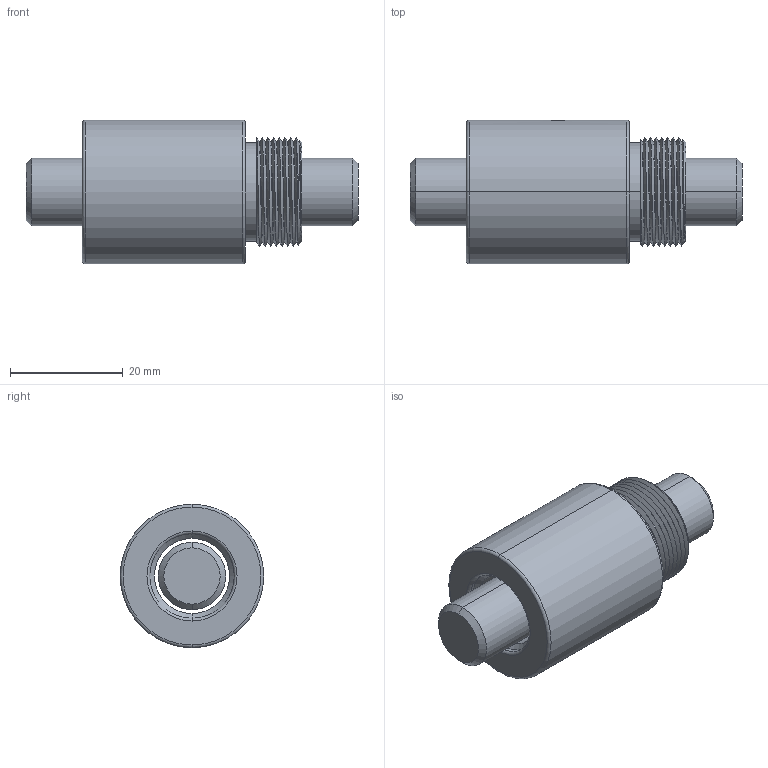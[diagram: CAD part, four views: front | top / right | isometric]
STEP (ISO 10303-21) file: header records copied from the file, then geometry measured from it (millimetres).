
FILE_DESCRIPTION (( 'STEP AP203' ), '1' );
FILE_NAME ('BSHR01205C1-C.STEP', '2020-06-22T06:28:25', ( '' ), ( '' ), 'SwSTEP 2.0', 'SolidWorks 2013', '' );
FILE_SCHEMA (( 'CONFIG_CONTROL_DESIGN' ));
Length unit declared in the file: millimetre
Products named in the file (1): BSHR01205C1-C
Bounding box: 59 x 25.5 x 25.5 mm (x, y, z)
Volume: 18472.6 mm3; surface area: 8054.4 mm2
Topology: 2 solids, 2 shells, 59 faces, 137 edges, 83 vertices
Faces by surface type: cylinder 31, cone 12, torus 8, plane 6, bspline 2
Entity records: 2838 total; most frequent: CARTESIAN_POINT 1511, ORIENTED_EDGE 270, DIRECTION 260, EDGE_CURVE 135, AXIS2_PLACEMENT_3D 109, VERTEX_POINT 83, EDGE_LOOP 64, ADVANCED_FACE 59
